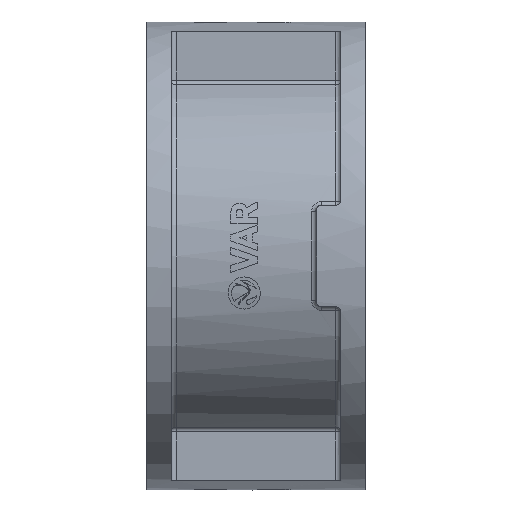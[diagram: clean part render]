
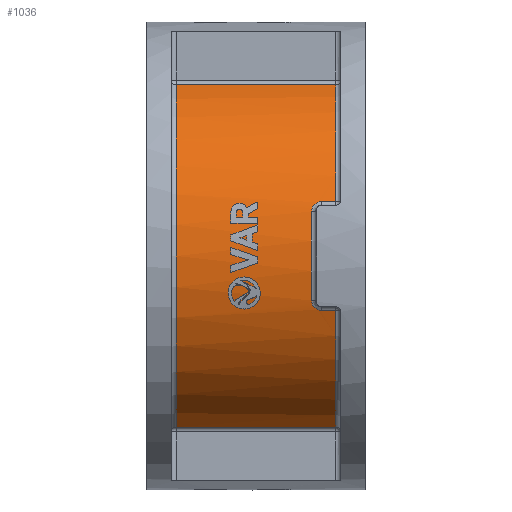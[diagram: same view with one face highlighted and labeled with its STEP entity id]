
A CAD part, left-side view. The second image highlights one B-rep face of the part: STEP entity #1036.
In plain terms, the highlighted cylindrical face has radius 36.2 mm (diameter 72.4 mm), a partial arc.
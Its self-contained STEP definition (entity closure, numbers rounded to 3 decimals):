
#1036=ADVANCED_FACE('',(#3495),#3497,.T.);
#3495=FACE_BOUND('',#3496,.T.);
#3496=EDGE_LOOP('',(#10729,#10730,#10731,#10732,#10733,#10734,#10735,#10736,#10737,
#10738));
#3497=CYLINDRICAL_SURFACE('',#3498,36.2);
#3498=AXIS2_PLACEMENT_3D('',#3499,#3500,#3501);
#3499=CARTESIAN_POINT('',(0.,4.8,0.));
#3500=DIRECTION('',(0.,1.,0.));
#3501=DIRECTION('',(-1.,0.,0.));
#10729=ORIENTED_EDGE('',*,*,#13177,.T.);
#10730=ORIENTED_EDGE('',*,*,#13178,.F.);
#10731=ORIENTED_EDGE('',*,*,#13179,.F.);
#10732=ORIENTED_EDGE('',*,*,#13180,.F.);
#10733=ORIENTED_EDGE('',*,*,#13181,.T.);
#10734=ORIENTED_EDGE('',*,*,#13182,.F.);
#10735=ORIENTED_EDGE('',*,*,#13183,.F.);
#10736=ORIENTED_EDGE('',*,*,#13184,.F.);
#10737=ORIENTED_EDGE('',*,*,#13185,.F.);
#10738=ORIENTED_EDGE('',*,*,#13186,.F.);
#13177=EDGE_CURVE('',#14214,#14215,#14216,.T.);
#13178=EDGE_CURVE('',#14217,#14215,#14218,.F.);
#13179=EDGE_CURVE('',#14219,#14217,#14220,.T.);
#13180=EDGE_CURVE('',#14221,#14219,#14222,.T.);
#13181=EDGE_CURVE('',#14221,#14223,#14224,.T.);
#13182=EDGE_CURVE('',#14225,#14223,#14226,.F.);
#13183=EDGE_CURVE('',#14227,#14225,#14228,.T.);
#13184=EDGE_CURVE('',#14229,#14227,#14230,.F.);
#13185=EDGE_CURVE('',#14231,#14229,#14232,.F.);
#13186=EDGE_CURVE('',#14214,#14231,#14233,.T.);
#14214=VERTEX_POINT('',#17218);
#14215=VERTEX_POINT('',#17219);
#14216=CIRCLE('',#17220,36.2);
#14217=VERTEX_POINT('',#17224);
#14218=LINE('',#17225,#17226);
#14219=VERTEX_POINT('',#17228);
#14220=CIRCLE('',#17229,36.2);
#14221=VERTEX_POINT('',#17233);
#14222=LINE('',#17234,#17235);
#14223=VERTEX_POINT('',#17237);
#14224=CIRCLE('',#17238,36.2);
#14225=VERTEX_POINT('',#17242);
#14226=LINE('',#17243,#17244);
#14227=VERTEX_POINT('',#17246);
#14228=B_SPLINE_CURVE_WITH_KNOTS('',3,
(#17247,#17248,#17249,#17250,#17251,#17252,#17253,#17254,#17255,#17256,#17257,#17258,
#17259,#17260,#17261,#17262,#17263,#17264),
.UNSPECIFIED.,.F.,.F.,
(4,1,1,1,1,1,1,1,1,1,1,1,1,1,1,4),
(0.,0.055,0.101,0.139,0.179,0.231,
0.294,0.371,0.453,0.539,0.625,
0.706,0.782,0.856,0.928,1.),
.UNSPECIFIED.);
#14229=VERTEX_POINT('',#17265);
#14230=CIRCLE('',#17266,36.2);
#14231=VERTEX_POINT('',#17270);
#14232=B_SPLINE_CURVE_WITH_KNOTS('',3,
(#17271,#17272,#17273,#17274,#17275,#17276,#17277,#17278,#17279,#17280,#17281,#17282,
#17283,#17284,#17285,#17286,#17287,#17288),
.UNSPECIFIED.,.F.,.F.,
(4,1,1,1,1,1,1,1,1,1,1,1,1,1,1,4),
(0.,0.055,0.101,0.139,0.179,0.231,
0.294,0.371,0.453,0.539,0.625,
0.706,0.782,0.856,0.928,1.),
.UNSPECIFIED.);
#14233=LINE('',#17289,#17290);
#17218=CARTESIAN_POINT('',(-34.581,5.8,10.704));
#17219=CARTESIAN_POINT('',(-13.38,5.8,33.636));
#17220=AXIS2_PLACEMENT_3D('',#17221,#17222,#17223);
#17221=CARTESIAN_POINT('',(0.,5.8,0.));
#17222=DIRECTION('',(0.,1.,0.));
#17223=DIRECTION('',(-0.955,0.,0.296));
#17224=CARTESIAN_POINT('',(-13.38,37.2,33.636));
#17225=CARTESIAN_POINT('',(-13.38,5.8,33.636));
#17226=VECTOR('',#17227,1.);
#17227=DIRECTION('',(0.,1.,0.));
#17228=CARTESIAN_POINT('',(-13.38,37.2,-33.636));
#17229=AXIS2_PLACEMENT_3D('',#17230,#17231,#17232);
#17230=CARTESIAN_POINT('',(0.,37.2,0.));
#17231=DIRECTION('',(0.,1.,0.));
#17232=DIRECTION('',(-0.37,0.,-0.929));
#17233=CARTESIAN_POINT('',(-13.38,5.8,-33.636));
#17234=CARTESIAN_POINT('',(-13.38,5.8,-33.636));
#17235=VECTOR('',#17236,1.);
#17236=DIRECTION('',(0.,1.,0.));
#17237=CARTESIAN_POINT('',(-34.581,5.8,-10.704));
#17238=AXIS2_PLACEMENT_3D('',#17239,#17240,#17241);
#17239=CARTESIAN_POINT('',(0.,5.8,0.));
#17240=DIRECTION('',(0.,1.,0.));
#17241=DIRECTION('',(-0.37,0.,-0.929));
#17242=CARTESIAN_POINT('',(-34.581,8.6,-10.704));
#17243=CARTESIAN_POINT('',(-34.581,5.8,-10.704));
#17244=VECTOR('',#17245,1.);
#17245=DIRECTION('',(0.,1.,0.));
#17246=CARTESIAN_POINT('',(-35.125,10.6,-8.758));
#17247=CARTESIAN_POINT('',(-35.125,10.6,-8.758));
#17248=CARTESIAN_POINT('',(-35.111,10.601,-8.813));
#17249=CARTESIAN_POINT('',(-35.086,10.595,-8.914));
#17250=CARTESIAN_POINT('',(-35.05,10.579,-9.052));
#17251=CARTESIAN_POINT('',(-35.018,10.555,-9.173));
#17252=CARTESIAN_POINT('',(-34.985,10.523,-9.299));
#17253=CARTESIAN_POINT('',(-34.946,10.474,-9.446));
#17254=CARTESIAN_POINT('',(-34.898,10.397,-9.622));
#17255=CARTESIAN_POINT('',(-34.844,10.285,-9.815));
#17256=CARTESIAN_POINT('',(-34.788,10.136,-10.013));
#17257=CARTESIAN_POINT('',(-34.734,9.953,-10.199));
#17258=CARTESIAN_POINT('',(-34.686,9.745,-10.361));
#17259=CARTESIAN_POINT('',(-34.647,9.523,-10.49));
#17260=CARTESIAN_POINT('',(-34.617,9.297,-10.587));
#17261=CARTESIAN_POINT('',(-34.596,9.067,-10.655));
#17262=CARTESIAN_POINT('',(-34.584,8.835,-10.695));
#17263=CARTESIAN_POINT('',(-34.581,8.678,-10.704));
#17264=CARTESIAN_POINT('',(-34.581,8.6,-10.704));
#17265=CARTESIAN_POINT('',(-35.125,10.6,8.758));
#17266=AXIS2_PLACEMENT_3D('',#17267,#17268,#17269);
#17267=CARTESIAN_POINT('',(0.,10.6,0.));
#17268=DIRECTION('',(0.,1.,0.));
#17269=DIRECTION('',(-0.97,0.,-0.242));
#17270=CARTESIAN_POINT('',(-34.581,8.6,10.704));
#17271=CARTESIAN_POINT('',(-35.125,10.6,8.758));
#17272=CARTESIAN_POINT('',(-35.111,10.601,8.813));
#17273=CARTESIAN_POINT('',(-35.086,10.595,8.914));
#17274=CARTESIAN_POINT('',(-35.05,10.579,9.052));
#17275=CARTESIAN_POINT('',(-35.018,10.555,9.173));
#17276=CARTESIAN_POINT('',(-34.985,10.523,9.299));
#17277=CARTESIAN_POINT('',(-34.946,10.474,9.446));
#17278=CARTESIAN_POINT('',(-34.898,10.397,9.622));
#17279=CARTESIAN_POINT('',(-34.844,10.285,9.815));
#17280=CARTESIAN_POINT('',(-34.788,10.136,10.013));
#17281=CARTESIAN_POINT('',(-34.734,9.953,10.199));
#17282=CARTESIAN_POINT('',(-34.686,9.745,10.361));
#17283=CARTESIAN_POINT('',(-34.647,9.523,10.49));
#17284=CARTESIAN_POINT('',(-34.617,9.297,10.587));
#17285=CARTESIAN_POINT('',(-34.596,9.067,10.655));
#17286=CARTESIAN_POINT('',(-34.584,8.835,10.695));
#17287=CARTESIAN_POINT('',(-34.581,8.678,10.704));
#17288=CARTESIAN_POINT('',(-34.581,8.6,10.704));
#17289=CARTESIAN_POINT('',(-34.581,5.8,10.704));
#17290=VECTOR('',#17291,1.);
#17291=DIRECTION('',(0.,1.,0.));
